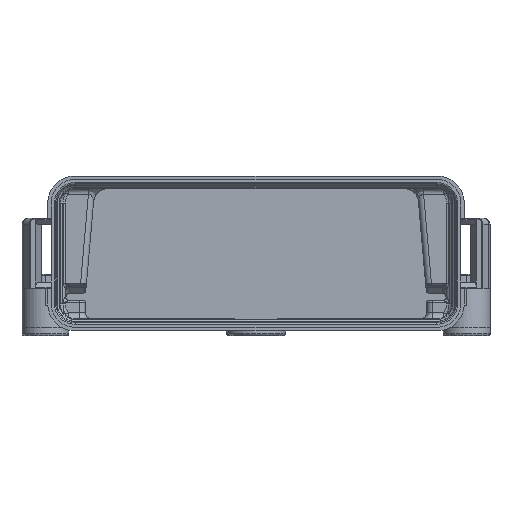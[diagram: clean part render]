
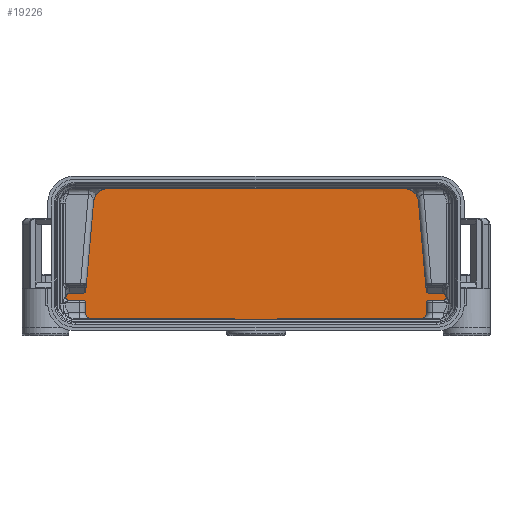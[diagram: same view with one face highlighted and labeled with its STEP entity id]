
A CAD part, top view. The second image highlights one B-rep face of the part: STEP entity #19226.
In plain terms, the highlighted planar face has unit normal (0, 0, 1).
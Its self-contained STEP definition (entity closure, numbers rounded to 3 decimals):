
#6209=DIRECTION('',(0.,-1.,0.));
#6210=VECTOR('',#6209,0.308);
#6211=CARTESIAN_POINT('',(-7.5,-22.25,-31.915));
#6212=LINE('',#6211,#6210);
#6594=CARTESIAN_POINT('',(63.73,-14.825,-31.915));
#6595=DIRECTION('',(0.,0.,1.));
#6596=DIRECTION('',(0.,-1.,0.));
#6597=AXIS2_PLACEMENT_3D('',#6594,#6595,#6596);
#6599=DIRECTION('',(1.,0.,0.));
#6600=VECTOR('',#6599,4.763);
#6601=CARTESIAN_POINT('',(58.968,-16.095,-31.915));
#6602=LINE('',#6601,#6600);
#6603=DIRECTION('',(0.,1.,0.));
#6604=VECTOR('',#6603,3.555);
#6605=CARTESIAN_POINT('',(58.368,-20.25,-31.915));
#6606=LINE('',#6605,#6604);
#6607=CARTESIAN_POINT('',(56.368,-20.25,-31.915));
#6608=DIRECTION('',(0.,0.,1.));
#6609=DIRECTION('',(0.,-1.,0.));
#6610=AXIS2_PLACEMENT_3D('',#6607,#6608,#6609);
#6612=DIRECTION('',(1.,0.,0.));
#6613=VECTOR('',#6612,48.868);
#6614=CARTESIAN_POINT('',(7.5,-22.25,-31.915));
#6615=LINE('',#6614,#6613);
#6616=DIRECTION('',(0.,-1.,0.));
#6617=VECTOR('',#6616,0.308);
#6618=CARTESIAN_POINT('',(7.5,-22.25,-31.915));
#6619=LINE('',#6618,#6617);
#6620=DIRECTION('',(1.,0.,0.));
#6621=VECTOR('',#6620,48.868);
#6622=CARTESIAN_POINT('',(-56.368,-22.25,-31.915));
#6623=LINE('',#6622,#6621);
#6624=CARTESIAN_POINT('',(-56.368,-20.25,-31.915));
#6625=DIRECTION('',(0.,0.,1.));
#6626=DIRECTION('',(-1.,0.,0.));
#6627=AXIS2_PLACEMENT_3D('',#6624,#6625,#6626);
#6629=DIRECTION('',(0.,-1.,0.));
#6630=VECTOR('',#6629,3.555);
#6631=CARTESIAN_POINT('',(-58.368,-16.695,-31.915));
#6632=LINE('',#6631,#6630);
#6633=DIRECTION('',(1.,0.,0.));
#6634=VECTOR('',#6633,4.763);
#6635=CARTESIAN_POINT('',(-63.73,-16.095,-31.915));
#6636=LINE('',#6635,#6634);
#6637=CARTESIAN_POINT('',(-63.73,-14.825,-31.915));
#6638=DIRECTION('',(0.,0.,1.));
#6639=DIRECTION('',(-0.988,-0.155,0.));
#6640=AXIS2_PLACEMENT_3D('',#6637,#6638,#6639);
#6642=CARTESIAN_POINT('',(-63.73,-13.505,-31.915));
#6643=CARTESIAN_POINT('',(-63.948,-13.505,-31.915));
#6644=CARTESIAN_POINT('',(-64.267,-13.635,-31.915));
#6645=CARTESIAN_POINT('',(-64.733,-14.087,-31.915));
#6646=CARTESIAN_POINT('',(-64.937,-14.589,-31.915));
#6647=CARTESIAN_POINT('',(-64.985,-15.022,-31.915));
#6649=DIRECTION('',(1.,0.,0.));
#6650=VECTOR('',#6649,4.911);
#6651=CARTESIAN_POINT('',(-63.73,-13.505,-31.915));
#6652=LINE('',#6651,#6650);
#6653=DIRECTION('',(-0.087,-0.996,0.));
#6654=VECTOR('',#6653,30.51);
#6655=CARTESIAN_POINT('',(-55.525,17.686,-31.915));
#6656=LINE('',#6655,#6654);
#6657=CARTESIAN_POINT('',(-50.544,17.25,-31.915));
#6658=DIRECTION('',(0.,0.,1.));
#6659=DIRECTION('',(0.,1.,0.));
#6660=AXIS2_PLACEMENT_3D('',#6657,#6658,#6659);
#6662=DIRECTION('',(-1.,0.,0.));
#6663=VECTOR('',#6662,101.089);
#6664=CARTESIAN_POINT('',(50.544,22.25,-31.915));
#6665=LINE('',#6664,#6663);
#6666=CARTESIAN_POINT('',(50.544,17.25,-31.915));
#6667=DIRECTION('',(0.,0.,1.));
#6668=DIRECTION('',(0.996,0.087,0.));
#6669=AXIS2_PLACEMENT_3D('',#6666,#6667,#6668);
#6671=DIRECTION('',(-0.087,0.996,0.));
#6672=VECTOR('',#6671,30.51);
#6673=CARTESIAN_POINT('',(58.185,-12.708,-31.915));
#6674=LINE('',#6673,#6672);
#6675=DIRECTION('',(1.,0.,0.));
#6676=VECTOR('',#6675,4.911);
#6677=CARTESIAN_POINT('',(58.819,-13.505,-31.915));
#6678=LINE('',#6677,#6676);
#6679=CARTESIAN_POINT('',(64.985,-15.022,-31.915));
#6680=CARTESIAN_POINT('',(64.937,-14.589,-31.915));
#6681=CARTESIAN_POINT('',(64.733,-14.087,-31.915));
#6682=CARTESIAN_POINT('',(64.267,-13.635,-31.915));
#6683=CARTESIAN_POINT('',(63.948,-13.505,-31.915));
#6684=CARTESIAN_POINT('',(63.73,-13.505,-31.915));
#6686=CARTESIAN_POINT('',(58.968,-16.695,-31.915));
#6687=DIRECTION('',(0.,0.,-1.));
#6688=DIRECTION('',(-1.,0.,0.));
#6689=AXIS2_PLACEMENT_3D('',#6686,#6687,#6688);
#6722=DIRECTION('',(-1.,0.,0.));
#6723=VECTOR('',#6722,15.);
#6724=CARTESIAN_POINT('',(7.5,-22.558,-31.915));
#6725=LINE('',#6724,#6723);
#7053=CARTESIAN_POINT('',(58.819,-13.505,-31.915));
#7054=CARTESIAN_POINT('',(58.592,-13.505,-31.915));
#7055=CARTESIAN_POINT('',(58.352,-13.27,-31.915));
#7056=CARTESIAN_POINT('',(58.204,-12.935,-31.915));
#7057=CARTESIAN_POINT('',(58.185,-12.708,-31.915));
#7269=CARTESIAN_POINT('',(-58.968,-16.695,-31.915));
#7270=DIRECTION('',(0.,0.,-1.));
#7271=DIRECTION('',(0.,1.,0.));
#7272=AXIS2_PLACEMENT_3D('',#7269,#7270,#7271);
#7760=CARTESIAN_POINT('',(-58.185,-12.708,-31.915));
#7761=CARTESIAN_POINT('',(-58.204,-12.935,-31.915));
#7762=CARTESIAN_POINT('',(-58.352,-13.27,-31.915));
#7763=CARTESIAN_POINT('',(-58.592,-13.505,-31.915));
#7764=CARTESIAN_POINT('',(-58.819,-13.505,-31.915));
#8377=CARTESIAN_POINT('',(-50.544,22.25,-31.915));
#8378=CARTESIAN_POINT('',(-55.525,17.686,-31.915));
#8379=VERTEX_POINT('',#8377);
#8380=VERTEX_POINT('',#8378);
#8381=CARTESIAN_POINT('',(50.544,22.25,-31.915));
#8382=VERTEX_POINT('',#8381);
#8391=CARTESIAN_POINT('',(-58.368,-20.25,-31.915));
#8392=CARTESIAN_POINT('',(-56.368,-22.25,-31.915));
#8393=VERTEX_POINT('',#8391);
#8394=VERTEX_POINT('',#8392);
#8396=CARTESIAN_POINT('',(56.368,-22.25,-31.915));
#8397=CARTESIAN_POINT('',(58.368,-20.25,-31.915));
#8398=VERTEX_POINT('',#8396);
#8399=VERTEX_POINT('',#8397);
#8408=CARTESIAN_POINT('',(55.525,17.686,-31.915));
#8409=VERTEX_POINT('',#8408);
#8423=CARTESIAN_POINT('',(-58.368,-16.695,-31.915));
#8424=VERTEX_POINT('',#8423);
#8425=CARTESIAN_POINT('',(-58.968,-16.095,-31.915));
#8426=VERTEX_POINT('',#8425);
#8428=CARTESIAN_POINT('',(-58.819,-13.505,-31.915));
#8430=VERTEX_POINT('',#8428);
#8432=CARTESIAN_POINT('',(-58.185,-12.708,-31.915));
#8434=VERTEX_POINT('',#8432);
#8449=CARTESIAN_POINT('',(58.968,-16.095,-31.915));
#8450=VERTEX_POINT('',#8449);
#8451=CARTESIAN_POINT('',(58.368,-16.695,-31.915));
#8452=VERTEX_POINT('',#8451);
#8461=CARTESIAN_POINT('',(58.185,-12.708,-31.915));
#8462=VERTEX_POINT('',#8461);
#8463=CARTESIAN_POINT('',(58.819,-13.505,-31.915));
#8464=VERTEX_POINT('',#8463);
#9360=CARTESIAN_POINT('',(63.73,-16.095,-31.915));
#9361=CARTESIAN_POINT('',(64.985,-15.022,-31.915));
#9362=VERTEX_POINT('',#9360);
#9363=VERTEX_POINT('',#9361);
#9388=VERTEX_POINT('',#6684);
#9405=CARTESIAN_POINT('',(-64.985,-15.022,-31.915));
#9406=CARTESIAN_POINT('',(-63.73,-16.095,-31.915));
#9407=VERTEX_POINT('',#9405);
#9408=VERTEX_POINT('',#9406);
#9433=VERTEX_POINT('',#6642);
#9464=CARTESIAN_POINT('',(7.5,-22.558,-31.915));
#9465=CARTESIAN_POINT('',(-7.5,-22.558,-31.915));
#9466=VERTEX_POINT('',#9464);
#9467=VERTEX_POINT('',#9465);
#9476=CARTESIAN_POINT('',(-7.5,-22.25,-31.915));
#9477=VERTEX_POINT('',#9476);
#9478=CARTESIAN_POINT('',(7.5,-22.25,-31.915));
#9479=VERTEX_POINT('',#9478);
#19172=CARTESIAN_POINT('',(0.,0.,-31.915));
#19173=DIRECTION('',(0.,0.,1.));
#19174=DIRECTION('',(1.,0.,0.));
#19175=AXIS2_PLACEMENT_3D('',#19172,#19173,#19174);
#19176=PLANE('',#19175);
#19177=ORIENTED_EDGE('',*,*,#19162,.F.);
#19178=ORIENTED_EDGE('',*,*,#19006,.F.);
#19180=ORIENTED_EDGE('',*,*,#19179,.F.);
#19182=ORIENTED_EDGE('',*,*,#19181,.F.);
#19184=ORIENTED_EDGE('',*,*,#19183,.F.);
#19185=ORIENTED_EDGE('',*,*,#18639,.F.);
#19187=ORIENTED_EDGE('',*,*,#19186,.T.);
#19189=ORIENTED_EDGE('',*,*,#19188,.T.);
#19190=ORIENTED_EDGE('',*,*,#18618,.F.);
#19191=ORIENTED_EDGE('',*,*,#18659,.F.);
#19193=ORIENTED_EDGE('',*,*,#19192,.F.);
#19195=ORIENTED_EDGE('',*,*,#19194,.F.);
#19197=ORIENTED_EDGE('',*,*,#19196,.F.);
#19199=ORIENTED_EDGE('',*,*,#19198,.F.);
#19201=ORIENTED_EDGE('',*,*,#19200,.F.);
#19203=ORIENTED_EDGE('',*,*,#19202,.F.);
#19205=ORIENTED_EDGE('',*,*,#19204,.T.);
#19207=ORIENTED_EDGE('',*,*,#19206,.F.);
#19209=ORIENTED_EDGE('',*,*,#19208,.F.);
#19211=ORIENTED_EDGE('',*,*,#19210,.F.);
#19213=ORIENTED_EDGE('',*,*,#19212,.F.);
#19215=ORIENTED_EDGE('',*,*,#19214,.F.);
#19217=ORIENTED_EDGE('',*,*,#19216,.F.);
#19219=ORIENTED_EDGE('',*,*,#19218,.F.);
#19221=ORIENTED_EDGE('',*,*,#19220,.T.);
#19223=ORIENTED_EDGE('',*,*,#19222,.F.);
#19224=EDGE_LOOP('',(#19177,#19178,#19180,#19182,#19184,#19185,#19187,#19189,
#19190,#19191,#19193,#19195,#19197,#19199,#19201,#19203,#19205,#19207,#19209,
#19211,#19213,#19215,#19217,#19219,#19221,#19223));
#19225=FACE_OUTER_BOUND('',#19224,.F.);
#19226=ADVANCED_FACE('',(#19225),#19176,.T.);
#6598=CIRCLE('',#6597,1.27);
#6611=CIRCLE('',#6610,2.);
#6628=CIRCLE('',#6627,2.);
#6641=CIRCLE('',#6640,1.27);
#6648=B_SPLINE_CURVE_WITH_KNOTS('',3,(#6642,#6643,#6644,#6645,#6646,#6647),
.UNSPECIFIED.,.F.,.F.,(4,1,1,4),(0.,0.25,0.5,1.),.UNSPECIFIED.);
#6661=CIRCLE('',#6660,5.);
#6670=CIRCLE('',#6669,5.);
#6685=B_SPLINE_CURVE_WITH_KNOTS('',3,(#6679,#6680,#6681,#6682,#6683,#6684),
.UNSPECIFIED.,.F.,.F.,(4,1,1,4),(0.,0.5,0.75,1.),.UNSPECIFIED.);
#6690=CIRCLE('',#6689,0.6);
#7058=B_SPLINE_CURVE_WITH_KNOTS('',3,(#7053,#7054,#7055,#7056,#7057),
.UNSPECIFIED.,.F.,.F.,(4,1,4),(0.,0.5,1.),.UNSPECIFIED.);
#7273=CIRCLE('',#7272,0.6);
#7765=B_SPLINE_CURVE_WITH_KNOTS('',3,(#7760,#7761,#7762,#7763,#7764),
.UNSPECIFIED.,.F.,.F.,(4,1,4),(0.,0.5,1.),.UNSPECIFIED.);
#18618=EDGE_CURVE('',#9477,#9467,#6212,.T.);
#18639=EDGE_CURVE('',#9479,#8398,#6615,.T.);
#18659=EDGE_CURVE('',#8394,#9477,#6623,.T.);
#19006=EDGE_CURVE('',#8450,#9362,#6602,.T.);
#19162=EDGE_CURVE('',#9362,#9363,#6598,.T.);
#19179=EDGE_CURVE('',#8452,#8450,#6690,.T.);
#19181=EDGE_CURVE('',#8399,#8452,#6606,.T.);
#19183=EDGE_CURVE('',#8398,#8399,#6611,.T.);
#19186=EDGE_CURVE('',#9479,#9466,#6619,.T.);
#19188=EDGE_CURVE('',#9466,#9467,#6725,.T.);
#19192=EDGE_CURVE('',#8393,#8394,#6628,.T.);
#19194=EDGE_CURVE('',#8424,#8393,#6632,.T.);
#19196=EDGE_CURVE('',#8426,#8424,#7273,.T.);
#19198=EDGE_CURVE('',#9408,#8426,#6636,.T.);
#19200=EDGE_CURVE('',#9407,#9408,#6641,.T.);
#19202=EDGE_CURVE('',#9433,#9407,#6648,.T.);
#19204=EDGE_CURVE('',#9433,#8430,#6652,.T.);
#19206=EDGE_CURVE('',#8434,#8430,#7765,.T.);
#19208=EDGE_CURVE('',#8380,#8434,#6656,.T.);
#19210=EDGE_CURVE('',#8379,#8380,#6661,.T.);
#19212=EDGE_CURVE('',#8382,#8379,#6665,.T.);
#19214=EDGE_CURVE('',#8409,#8382,#6670,.T.);
#19216=EDGE_CURVE('',#8462,#8409,#6674,.T.);
#19218=EDGE_CURVE('',#8464,#8462,#7058,.T.);
#19220=EDGE_CURVE('',#8464,#9388,#6678,.T.);
#19222=EDGE_CURVE('',#9363,#9388,#6685,.T.);
